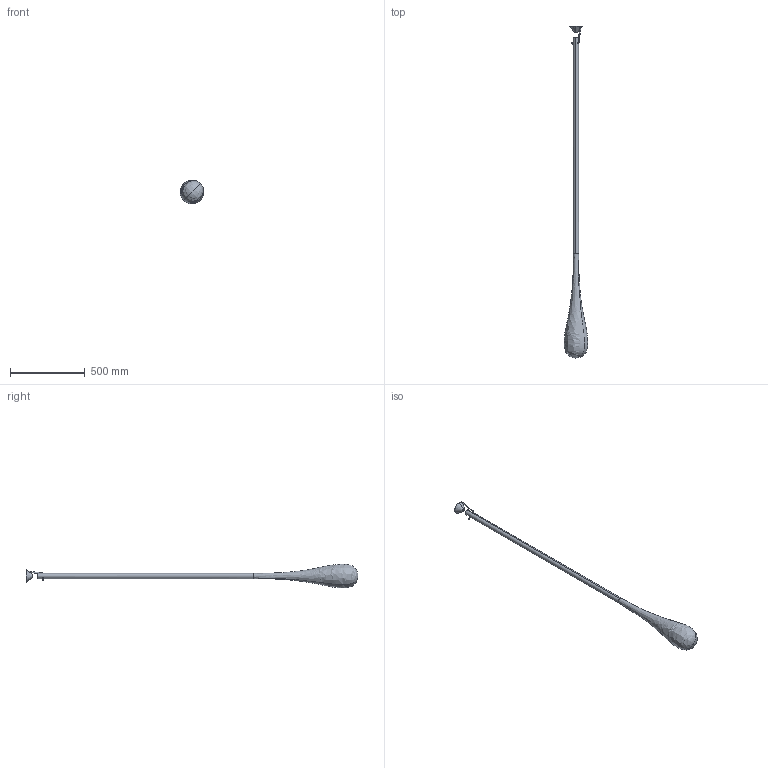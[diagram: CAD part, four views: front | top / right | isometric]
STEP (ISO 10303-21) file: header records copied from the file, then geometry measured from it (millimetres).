
FILE_DESCRIPTION (( 'STEP AP203' ), '1' );
FILE_NAME ('GLO_PL_STEP.STEP', '2016-01-13T13:14:43', ( 'admin' ), ( '' ), 'SwSTEP 2.0', 'SolidWorks 2015', '' );
FILE_SCHEMA (( 'CONFIG_CONTROL_DESIGN' ));
Length unit declared in the file: millimetre
Products named in the file (2): GLO_PL_STEP
Bounding box: 158.53 x 2225.65 x 158.53 mm (x, y, z)
Volume: 1654458.8 mm3; surface area: 677482.4 mm2
Topology: 2 solids, 2 shells, 41 faces, 108 edges, 69 vertices
Faces by surface type: cylinder 17, bspline 15, plane 5, cone 4
Entity records: 2405 total; most frequent: CARTESIAN_POINT 1314, ORIENTED_EDGE 204, DIRECTION 190, EDGE_CURVE 102, AXIS2_PLACEMENT_3D 85, VERTEX_POINT 69, CIRCLE 57, EDGE_LOOP 51
